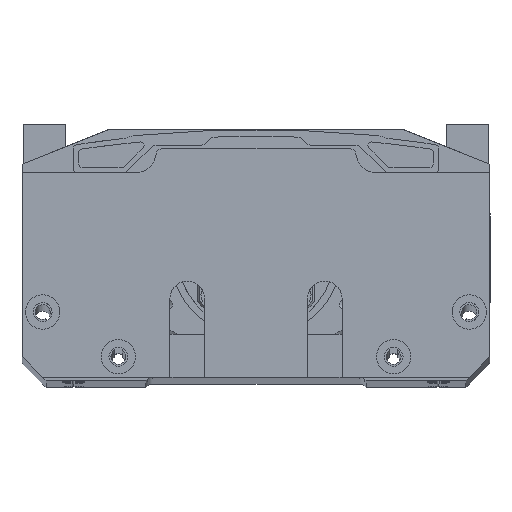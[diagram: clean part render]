
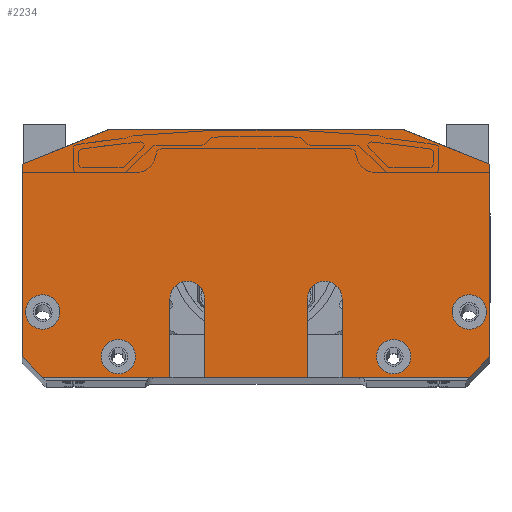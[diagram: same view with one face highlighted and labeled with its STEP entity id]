
A CAD part, top view. The second image highlights one B-rep face of the part: STEP entity #2234.
In plain terms, the highlighted planar face has unit normal (0, 0, 1).
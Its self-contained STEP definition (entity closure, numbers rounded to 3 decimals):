
#2234=ADVANCED_FACE('9',(#3307,#3308,#3309,#3310,#3311),#2891,.T.);
#2891=PLANE('',#18897);
#3307=FACE_BOUND('',#4323,.T.);
#3308=FACE_BOUND('',#4324,.T.);
#3309=FACE_BOUND('',#4325,.T.);
#3310=FACE_BOUND('',#4326,.T.);
#3311=FACE_BOUND('',#4327,.T.);
#4323=EDGE_LOOP('',(#8752,#8753,#8754,#8755,#8756,#8757,#8758,#8759,#8760,
#8761,#8762,#8763,#8764,#8765,#8766,#8767));
#4324=EDGE_LOOP('',(#8768));
#4325=EDGE_LOOP('',(#8769));
#4326=EDGE_LOOP('',(#8770));
#4327=EDGE_LOOP('',(#8771));
#5491=CIRCLE('',#18856,5.);
#5493=CIRCLE('',#18861,5.);
#5511=CIRCLE('',#18893,5.);
#5512=CIRCLE('',#18894,5.);
#5513=CIRCLE('',#18895,5.);
#5514=CIRCLE('',#18896,5.);
#8752=ORIENTED_EDGE('',*,*,#14328,.T.);
#8753=ORIENTED_EDGE('',*,*,#14330,.T.);
#8754=ORIENTED_EDGE('',*,*,#14324,.T.);
#8755=ORIENTED_EDGE('',*,*,#13430,.F.);
#8756=ORIENTED_EDGE('',*,*,#14336,.T.);
#8757=ORIENTED_EDGE('',*,*,#14338,.T.);
#8758=ORIENTED_EDGE('',*,*,#14332,.T.);
#8759=ORIENTED_EDGE('',*,*,#13427,.F.);
#8760=ORIENTED_EDGE('',*,*,#13444,.T.);
#8761=ORIENTED_EDGE('',*,*,#13470,.F.);
#8762=ORIENTED_EDGE('',*,*,#14347,.T.);
#8763=ORIENTED_EDGE('',*,*,#14369,.F.);
#8764=ORIENTED_EDGE('',*,*,#14350,.T.);
#8765=ORIENTED_EDGE('',*,*,#13372,.F.);
#8766=ORIENTED_EDGE('',*,*,#13415,.T.);
#8767=ORIENTED_EDGE('',*,*,#13433,.F.);
#8768=ORIENTED_EDGE('',*,*,#14370,.F.);
#8769=ORIENTED_EDGE('',*,*,#14371,.F.);
#8770=ORIENTED_EDGE('',*,*,#14372,.F.);
#8771=ORIENTED_EDGE('',*,*,#14373,.F.);
#11463=VERTEX_POINT('',#26905);
#11464=VERTEX_POINT('',#26907);
#11492=VERTEX_POINT('',#26986);
#11498=VERTEX_POINT('',#27007);
#11499=VERTEX_POINT('',#27009);
#11500=VERTEX_POINT('',#27012);
#11501=VERTEX_POINT('',#27014);
#11502=VERTEX_POINT('',#27017);
#11509=VERTEX_POINT('',#27038);
#11531=VERTEX_POINT('',#27088);
#12058=VERTEX_POINT('',#30633);
#12060=VERTEX_POINT('',#30639);
#12062=VERTEX_POINT('',#30648);
#12064=VERTEX_POINT('',#30654);
#12073=VERTEX_POINT('',#30679);
#12075=VERTEX_POINT('',#30685);
#12085=VERTEX_POINT('',#30725);
#12086=VERTEX_POINT('',#30727);
#12087=VERTEX_POINT('',#30729);
#12088=VERTEX_POINT('',#30731);
#13372=EDGE_CURVE('',#11463,#11464,#15523,.T.);
#13415=EDGE_CURVE('',#11463,#11492,#15556,.T.);
#13427=EDGE_CURVE('',#11498,#11499,#15567,.T.);
#13430=EDGE_CURVE('',#11500,#11501,#15570,.T.);
#13433=EDGE_CURVE('',#11502,#11492,#15573,.T.);
#13444=EDGE_CURVE('',#11498,#11509,#15583,.T.);
#13470=EDGE_CURVE('',#11531,#11509,#15607,.T.);
#14324=EDGE_CURVE('',#12058,#11501,#16022,.T.);
#14328=EDGE_CURVE('',#11502,#12060,#16026,.T.);
#14330=EDGE_CURVE('',#12060,#12058,#5491,.T.);
#14332=EDGE_CURVE('',#12062,#11499,#16028,.T.);
#14336=EDGE_CURVE('',#11500,#12064,#16032,.T.);
#14338=EDGE_CURVE('',#12064,#12062,#5493,.T.);
#14347=EDGE_CURVE('',#11531,#12073,#16037,.T.);
#14350=EDGE_CURVE('',#12075,#11464,#16040,.T.);
#14369=EDGE_CURVE('',#12075,#12073,#16046,.T.);
#14370=EDGE_CURVE('',#12085,#12085,#5511,.T.);
#14371=EDGE_CURVE('',#12086,#12086,#5512,.T.);
#14372=EDGE_CURVE('',#12087,#12087,#5513,.T.);
#14373=EDGE_CURVE('',#12088,#12088,#5514,.T.);
#15523=LINE('',#26906,#16821);
#15556=LINE('',#26987,#16854);
#15567=LINE('',#27008,#16865);
#15570=LINE('',#27013,#16868);
#15573=LINE('',#27018,#16871);
#15583=LINE('',#27039,#16881);
#15607=LINE('',#27089,#16905);
#16022=LINE('',#30632,#17320);
#16026=LINE('',#30640,#17324);
#16028=LINE('',#30647,#17326);
#16032=LINE('',#30655,#17330);
#16037=LINE('',#30678,#17335);
#16040=LINE('',#30684,#17338);
#16046=LINE('',#30723,#17344);
#16821=VECTOR('',#20761,1.);
#16854=VECTOR('',#20832,1.);
#16865=VECTOR('',#20851,1.);
#16868=VECTOR('',#20854,1.);
#16871=VECTOR('',#20857,1.);
#16881=VECTOR('',#20875,1.);
#16905=VECTOR('',#20907,1.);
#17320=VECTOR('',#22654,1.);
#17324=VECTOR('',#22660,1.);
#17326=VECTOR('',#22670,1.);
#17330=VECTOR('',#22676,1.);
#17335=VECTOR('',#22701,1.);
#17338=VECTOR('',#22706,1.);
#17344=VECTOR('',#22758,1.);
#18856=AXIS2_PLACEMENT_3D('',#30643,#22665,#22666);
#18861=AXIS2_PLACEMENT_3D('',#30658,#22681,#22682);
#18893=AXIS2_PLACEMENT_3D('',#30724,#22759,#22760);
#18894=AXIS2_PLACEMENT_3D('',#30726,#22761,#22762);
#18895=AXIS2_PLACEMENT_3D('',#30728,#22763,#22764);
#18896=AXIS2_PLACEMENT_3D('',#30730,#22765,#22766);
#18897=AXIS2_PLACEMENT_3D('',#30732,#22767,#22768);
#20761=DIRECTION('',(0.,1.,0.));
#20832=DIRECTION('',(0.707,-0.707,0.));
#20851=DIRECTION('',(-1.,0.,0.));
#20854=DIRECTION('',(-1.,0.,0.));
#20857=DIRECTION('',(-1.,0.,0.));
#20875=DIRECTION('',(0.707,0.707,0.));
#20907=DIRECTION('',(0.,-1.,0.));
#22654=DIRECTION('',(0.,-1.,0.));
#22660=DIRECTION('',(0.,1.,0.));
#22665=DIRECTION('',(0.,0.,-1.));
#22666=DIRECTION('',(1.,0.,0.));
#22670=DIRECTION('',(0.,-1.,0.));
#22676=DIRECTION('',(0.,1.,0.));
#22681=DIRECTION('',(0.,0.,-1.));
#22682=DIRECTION('',(-1.,0.,0.));
#22701=DIRECTION('',(-0.928,0.371,0.));
#22706=DIRECTION('',(-0.928,-0.371,0.));
#22758=DIRECTION('',(1.,0.,0.));
#22759=DIRECTION('',(0.,0.,1.));
#22760=DIRECTION('',(1.,0.,0.));
#22761=DIRECTION('',(0.,0.,1.));
#22762=DIRECTION('',(1.,0.,0.));
#22763=DIRECTION('',(0.,0.,1.));
#22764=DIRECTION('',(1.,0.,0.));
#22765=DIRECTION('',(0.,0.,1.));
#22766=DIRECTION('',(1.,0.,0.));
#22767=DIRECTION('',(0.,0.,1.));
#22768=DIRECTION('',(-1.,0.,0.));
#26905=CARTESIAN_POINT('',(-68.,6.,382.));
#26906=CARTESIAN_POINT('',(-68.,0.,382.));
#26907=CARTESIAN_POINT('',(-68.,62.,382.));
#26986=CARTESIAN_POINT('',(-62.,0.,382.));
#26987=CARTESIAN_POINT('',(-49.,-13.,382.));
#27007=CARTESIAN_POINT('',(62.,0.,382.));
#27008=CARTESIAN_POINT('',(68.,0.,382.));
#27009=CARTESIAN_POINT('',(25.,0.,382.));
#27012=CARTESIAN_POINT('',(15.,0.,382.));
#27013=CARTESIAN_POINT('',(68.,0.,382.));
#27014=CARTESIAN_POINT('',(-15.,0.,382.));
#27017=CARTESIAN_POINT('',(-25.,0.,382.));
#27018=CARTESIAN_POINT('',(68.,0.,382.));
#27038=CARTESIAN_POINT('',(68.,6.,382.));
#27039=CARTESIAN_POINT('',(49.,-13.,382.));
#27088=CARTESIAN_POINT('',(68.,62.,382.));
#27089=CARTESIAN_POINT('',(68.,0.,382.));
#30632=CARTESIAN_POINT('',(-15.,23.,382.));
#30633=CARTESIAN_POINT('',(-15.,23.,382.));
#30639=CARTESIAN_POINT('',(-25.,23.,382.));
#30640=CARTESIAN_POINT('',(-25.,23.,382.));
#30643=CARTESIAN_POINT('',(-20.,23.,382.));
#30647=CARTESIAN_POINT('',(25.,23.,382.));
#30648=CARTESIAN_POINT('',(25.,23.,382.));
#30654=CARTESIAN_POINT('',(15.,23.,382.));
#30655=CARTESIAN_POINT('',(15.,23.,382.));
#30658=CARTESIAN_POINT('',(20.,23.,382.));
#30678=CARTESIAN_POINT('',(18.345,81.862,382.));
#30679=CARTESIAN_POINT('',(43.,72.,382.));
#30684=CARTESIAN_POINT('',(-18.345,81.862,382.));
#30685=CARTESIAN_POINT('',(-43.,72.,382.));
#30723=CARTESIAN_POINT('',(68.,72.,382.));
#30724=CARTESIAN_POINT('',(-62.,19.,382.));
#30725=CARTESIAN_POINT('',(-57.,19.,382.));
#30726=CARTESIAN_POINT('',(62.,19.,382.));
#30727=CARTESIAN_POINT('',(67.,19.,382.));
#30728=CARTESIAN_POINT('',(-40.,6.,382.));
#30729=CARTESIAN_POINT('',(-35.,6.,382.));
#30730=CARTESIAN_POINT('',(40.,6.,382.));
#30731=CARTESIAN_POINT('',(45.,6.,382.));
#30732=CARTESIAN_POINT('',(0.,36.,382.));
